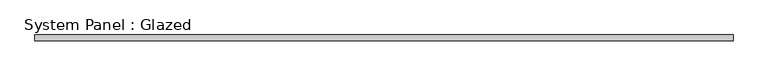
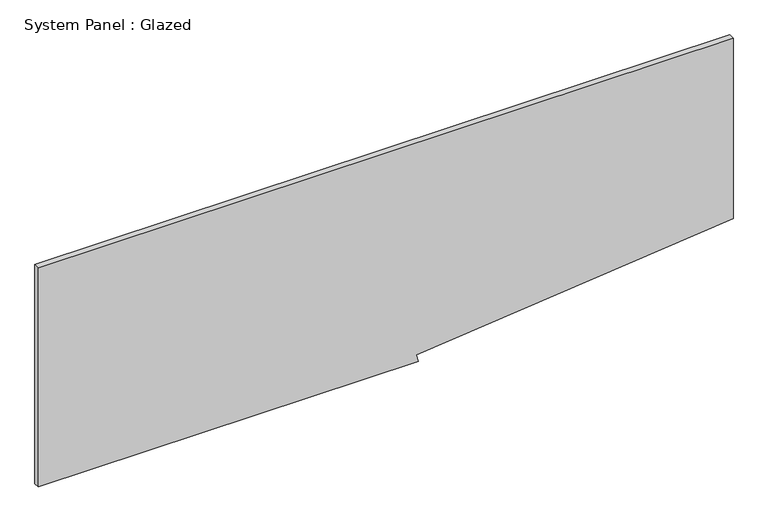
"""IFC4 building model written with IfcOpenShell, lengths in millimetres: plate geometry, System Panel : Glazed."""

from ifc_helpers import new_model, si_unit, frame, origin, place, context, project, spatial, polyline, outline, extrude, source, transform, mapped, element, save


def system_panel_glazed_51db33f8(model_context):
    return source(origin(), model_context, "Body", "SweptSolid", [
        extrude(outline(polyline([(0.0, -1504.95), (0.0, 140.1027755), (31.4002578, 133.4473316), (175.9437552, 1504.95), (1003.3, 1504.95), (1003.3, -1504.95), (0.0, -1504.95)])), frame((0.0, 19.05, 0.0), z_axis=(0.0, 1.0, 0.0), x_axis=(0.0, 0.0, 1.0)), (0.0, 0.0, 1.0), 25.4),
    ])


if __name__ == "__main__":
    model = new_model("IFC4")
    model_context = context("Model", 3, world=origin())
    ifc_project = project(units=[si_unit("LENGTHUNIT", "METRE", prefix="MILLI")], contexts=[model_context])
    site = spatial("IfcSite", under=ifc_project)
    building = spatial("IfcBuilding", under=site)
    placement = place(None, origin())
    system_panel_glazed_shape = system_panel_glazed_51db33f8(model_context)
    element("IfcPlate", 1, ObjectType="System Panel : Glazed", at=placement, inside=building, context=model_context, shape_type="MappedRepresentation", body=[
        mapped(system_panel_glazed_shape, transform((0.0, 0.0, 0.0), x_axis=(1.0, 0.0, 0.0), y_axis=(0.0, 1.0, 0.0), z_axis=(0.0, 0.0, 1.0))),
    ])
    save(model, "model.ifc")
